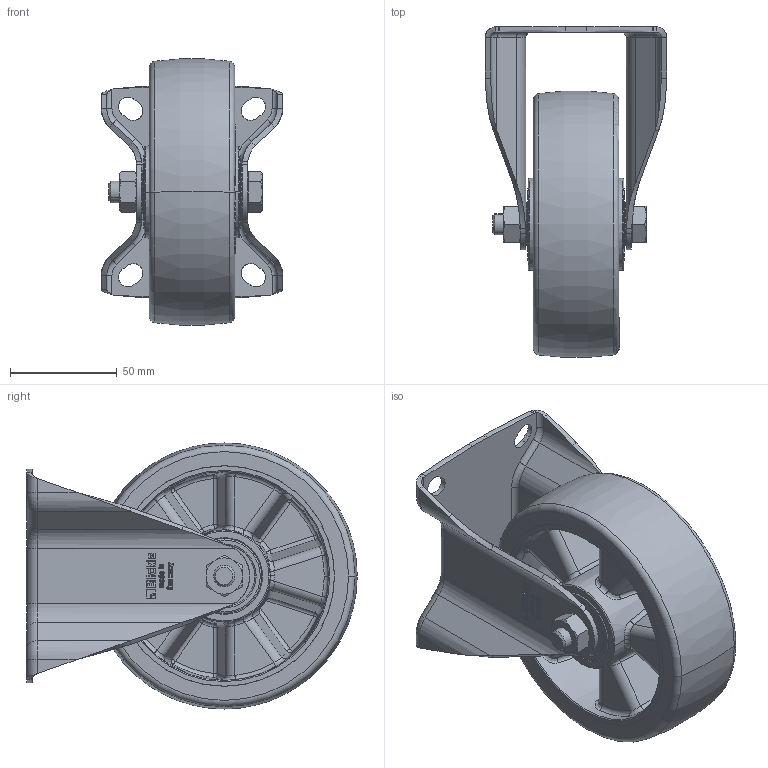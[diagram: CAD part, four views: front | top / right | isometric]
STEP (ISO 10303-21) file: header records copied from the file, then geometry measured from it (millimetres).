
FILE_DESCRIPTION (( 'STEP AP214' ), '1' );
FILE_NAME ('BK-ALTH_125K-1_265835-214.step', '2021-12-01T14:45:30', ( '' ), ( '' ), 'SwSTEP 2.0', 'SolidWorks 2018', '' );
FILE_SCHEMA (( 'AUTOMOTIVE_DESIGN' ));
Length unit declared in the file: millimetre
Products named in the file (5): GH-BK_80-125_GH-BK-125x45-01_15x45; GH-BK-125x45-01_15x45_G16_3D; ALTH_125_15K_G16_3D; BK-ALTH_125K-1_265835-214; ALTH_3D_G16_ALTH_125_15K_265710
Assembly tree (4 placements, depth 3):
  BK-ALTH_125K-1_265835-214
    GH-BK_80-125_GH-BK-125x45-01_15x45
      GH-BK-125x45-01_15x45_G16_3D
    ALTH_3D_G16_ALTH_125_15K_265710
      ALTH_125_15K_G16_3D
Bounding box: 85 x 154.86 x 124.73 mm (x, y, z)
Volume: 316014.2 mm3; surface area: 120825.9 mm2
Topology: 2 solids, 5 shells, 1942 faces, 5013 edges, 3214 vertices
Faces by surface type: plane 840, bspline 742, cylinder 130, torus 129, cone 63, sphere 38
Entity records: 89932 total; most frequent: CARTESIAN_POINT 32286, ORIENTED_EDGE 10026, DIRECTION 6524, EDGE_CURVE 5013, VERTEX_POINT 3214, VECTOR 2670, LINE 2670, EDGE_LOOP 2093
